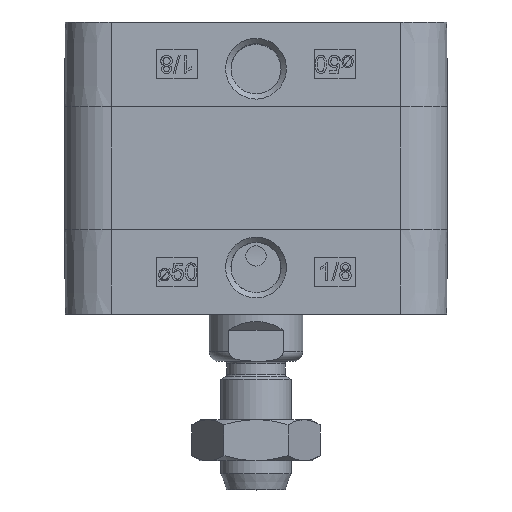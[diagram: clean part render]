
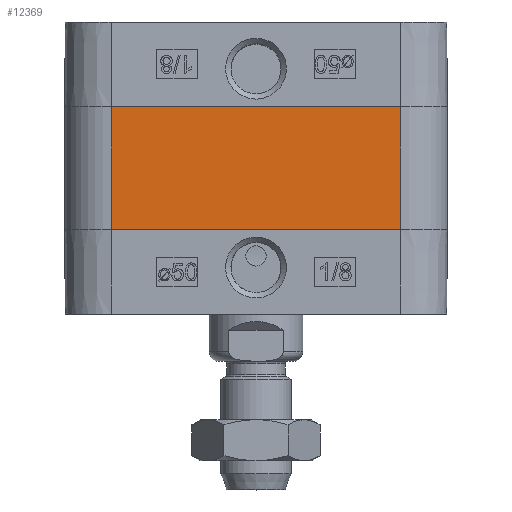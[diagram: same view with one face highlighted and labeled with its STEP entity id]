
A CAD part, top view. The second image highlights one B-rep face of the part: STEP entity #12369.
In plain terms, the highlighted planar face has unit normal (0, 0, 1) as drawn and (-1, 0, 0) by its records, which use the part's own axes.
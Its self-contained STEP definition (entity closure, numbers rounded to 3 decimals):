
#1308=ORIENTED_EDGE('',*,*,#4985,.T.);
#1309=ORIENTED_EDGE('',*,*,#4984,.F.);
#1310=ORIENTED_EDGE('',*,*,#4986,.T.);
#1311=ORIENTED_EDGE('',*,*,#4987,.T.);
#4984=EDGE_CURVE('',#6822,#6821,#8084,.T.);
#4985=EDGE_CURVE('',#6823,#6821,#8085,.T.);
#4986=EDGE_CURVE('',#6822,#6824,#8086,.T.);
#4987=EDGE_CURVE('',#6824,#6823,#8087,.T.);
#6821=VERTEX_POINT('',#22373);
#6822=VERTEX_POINT('',#22375);
#6823=VERTEX_POINT('',#22379);
#6824=VERTEX_POINT('',#22381);
#8084=LINE('',#22376,#9106);
#8085=LINE('',#22378,#9107);
#8086=LINE('',#22380,#9108);
#8087=LINE('',#22382,#9109);
#9106=VECTOR('',#19002,1000.);
#9107=VECTOR('',#19005,1000.);
#9108=VECTOR('',#19006,1000.);
#9109=VECTOR('',#19007,1000.);
#10121=EDGE_LOOP('',(#1308,#1309,#1310,#1311));
#11073=FACE_BOUND('',#10121,.T.);
#12022=PLANE('',#17805);
#12369=ADVANCED_FACE('',(#11073),#12022,.T.);
#17805=AXIS2_PLACEMENT_3D('',#22377,#19003,#19004);
#19002=DIRECTION('',(0.,0.,1.));
#19003=DIRECTION('',(-1.,0.,0.));
#19004=DIRECTION('',(0.,0.,1.));
#19005=DIRECTION('',(0.,1.,0.));
#19006=DIRECTION('',(0.,-1.,0.));
#19007=DIRECTION('',(0.,0.,1.));
#22373=CARTESIAN_POINT('',(-32.75,24.75,21.));
#22375=CARTESIAN_POINT('',(-32.75,24.75,0.));
#22376=CARTESIAN_POINT('',(-32.75,24.75,0.));
#22377=CARTESIAN_POINT('',(-32.75,-24.75,0.));
#22378=CARTESIAN_POINT('',(-32.75,24.75,21.));
#22379=CARTESIAN_POINT('',(-32.75,-24.75,21.));
#22380=CARTESIAN_POINT('',(-32.75,24.75,0.));
#22381=CARTESIAN_POINT('',(-32.75,-24.75,0.));
#22382=CARTESIAN_POINT('',(-32.75,-24.75,0.));
